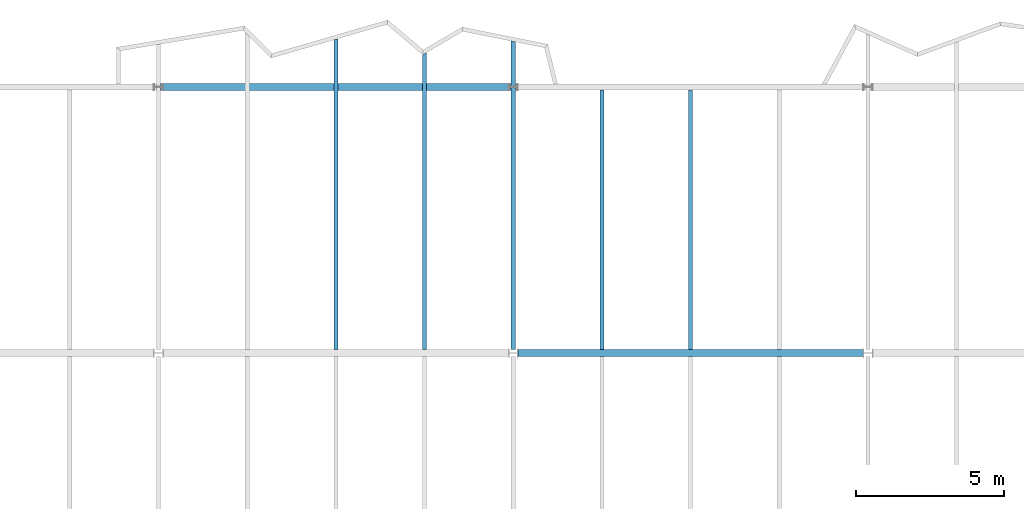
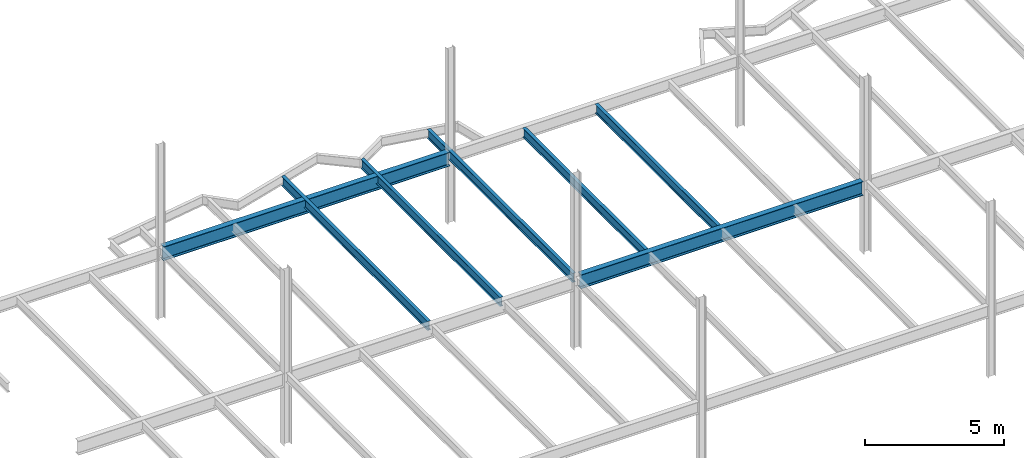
# One storey, part 6 of 23: 7 beams.
"""IFC2X3 building model written with IfcOpenShell, lengths in millimetres."""

from ifc_helpers import new_model, si_unit, origin, place, context, project, spatial, faceted_brep, material, element, save


model = new_model("IFC2X3")

# Units and contexts
context_of_model = context(None, 3, precision=1e-05, world=origin())
ifc_project = project(units=[si_unit("LENGTHUNIT", "METRE", prefix="MILLI")], contexts=[context_of_model])

# Building, storey
building = spatial("IfcBuilding", under=ifc_project, Name="Building", CompositionType="ELEMENT")
storey = spatial("IfcBuildingStorey", under=building, Name="FL5-FRM", CompositionType="ELEMENT")

# Beams
ifc_material_1 = material(Name="A992")
beam_1_placement = place(None, origin())
element("IfcBeam", 1, at=beam_1_placement, inside=storey, material=ifc_material_1, Name="Column401", context=context_of_model, shape_type="Brep", body=[
    faceted_brep([(-47930.0, 35885.5, 17261.0), (-47930.0, 36114.5, 17261.0), (-36070.0, 36114.5, 17261.0), (-36070.0, 35885.5, 17261.0), (-47930.0, 36114.5, 17280.6), (-36070.0, 36114.5, 17280.6), (-47930.0, 36018.6, 17280.6), (-36070.0, 36018.6, 17280.6), (-47930.0, 36015.4, 17281.0), (-36070.0, 36015.4, 17281.0), (-47930.0, 36012.3, 17282.3), (-36070.0, 36012.3, 17282.3), (-47930.0, 36009.7, 17284.3), (-36070.0, 36009.7, 17284.3), (-47930.0, 36007.7, 17287.0), (-36070.0, 36007.7, 17287.0), (-47930.0, 36006.4, 17290.0), (-36070.0, 36006.4, 17290.0), (-47930.0, 36005.9, 17293.3), (-36070.0, 36005.9, 17293.3), (-47930.0, 36005.9, 17840.7), (-36070.0, 36005.9, 17840.7), (-47930.0, 36006.4, 17844.0), (-36070.0, 36006.4, 17844.0), (-47930.0, 36007.7, 17847.0), (-36070.0, 36007.7, 17847.0), (-47930.0, 36009.7, 17849.7), (-36070.0, 36009.7, 17849.7), (-47930.0, 36012.3, 17851.7), (-36070.0, 36012.3, 17851.7), (-47930.0, 36015.4, 17853.0), (-36070.0, 36015.4, 17853.0), (-47930.0, 36018.6, 17853.4), (-36070.0, 36018.6, 17853.4), (-47930.0, 36114.5, 17853.4), (-36070.0, 36114.5, 17853.4), (-47930.0, 36114.5, 17873.0), (-36070.0, 36114.5, 17873.0), (-47930.0, 35885.5, 17873.0), (-36070.0, 35885.5, 17873.0), (-47930.0, 35885.5, 17853.4), (-36070.0, 35885.5, 17853.4), (-47930.0, 35981.4, 17853.4), (-36070.0, 35981.4, 17853.4), (-47930.0, 35984.6, 17853.0), (-36070.0, 35984.6, 17853.0), (-47930.0, 35987.7, 17851.7), (-36070.0, 35987.7, 17851.7), (-47930.0, 35990.3, 17849.7), (-36070.0, 35990.3, 17849.7), (-47930.0, 35992.3, 17847.0), (-36070.0, 35992.3, 17847.0), (-47930.0, 35993.6, 17844.0), (-36070.0, 35993.6, 17844.0), (-47930.0, 35994.1, 17840.7), (-36070.0, 35994.1, 17840.7), (-47930.0, 35994.1, 17293.3), (-36070.0, 35994.1, 17293.3), (-47930.0, 35993.6, 17290.0), (-36070.0, 35993.6, 17290.0), (-47930.0, 35992.3, 17287.0), (-36070.0, 35992.3, 17287.0), (-47930.0, 35990.3, 17284.3), (-36070.0, 35990.3, 17284.3), (-47930.0, 35987.7, 17282.3), (-36070.0, 35987.7, 17282.3), (-47930.0, 35984.6, 17281.0), (-36070.0, 35984.6, 17281.0), (-47930.0, 35981.4, 17280.6), (-36070.0, 35981.4, 17280.6), (-47930.0, 35885.5, 17280.6), (-36070.0, 35885.5, 17280.6)], [[[0, 1, 2, 3]], [[1, 4, 5, 2]], [[4, 6, 7, 5]], [[6, 8, 9, 7]], [[8, 10, 11, 9]], [[10, 12, 13, 11]], [[12, 14, 15, 13]], [[14, 16, 17, 15]], [[16, 18, 19, 17]], [[18, 20, 21, 19]], [[20, 22, 23, 21]], [[22, 24, 25, 23]], [[24, 26, 27, 25]], [[26, 28, 29, 27]], [[28, 30, 31, 29]], [[30, 32, 33, 31]], [[32, 34, 35, 33]], [[34, 36, 37, 35]], [[36, 38, 39, 37]], [[38, 40, 41, 39]], [[40, 42, 43, 41]], [[42, 44, 45, 43]], [[44, 46, 47, 45]], [[46, 48, 49, 47]], [[48, 50, 51, 49]], [[50, 52, 53, 51]], [[52, 54, 55, 53]], [[54, 56, 57, 55]], [[56, 58, 59, 57]], [[58, 60, 61, 59]], [[60, 62, 63, 61]], [[62, 64, 65, 63]], [[64, 66, 67, 65]], [[66, 68, 69, 67]], [[68, 70, 71, 69]], [[70, 0, 3, 71]], [[0, 70, 68, 66, 64, 62, 60, 58, 56, 54, 52, 50, 48, 46, 44, 42, 40, 38, 36, 34, 32, 30, 28, 26, 24, 22, 20, 18, 16, 14, 12, 10, 8, 6, 4, 1]], [[3, 2, 5, 7, 9, 11, 13, 15, 17, 19, 21, 23, 25, 27, 29, 31, 33, 35, 37, 39, 41, 43, 45, 47, 49, 51, 53, 55, 57, 59, 61, 63, 65, 67, 69, 71]]]),
])
ifc_material_2 = material(Name="A992")
beam_2_placement = place(None, origin())
element("IfcBeam", 2, at=beam_2_placement, inside=storey, material=ifc_material_2, Name="B254", context=context_of_model, shape_type="Brep", body=[
    faceted_brep([(-42070.0, 37592.1, 17474.0), (-41930.0, 37632.7, 17474.0), (-41930.0, 27114.5, 17474.0), (-42070.0, 27114.5, 17474.0), (-41930.0, 37632.7, 17482.8), (-41930.0, 27114.5, 17482.8), (-41986.6, 37616.3, 17482.8), (-41986.6, 27114.5, 17482.8), (-41988.0, 37615.9, 17482.9), (-41988.1, 27114.5, 17482.9), (-41989.5, 37615.4, 17483.2), (-41989.5, 27114.5, 17483.2), (-41990.8, 37615.0, 17483.7), (-41990.8, 27114.5, 17483.7), (-41992.1, 37614.7, 17484.4), (-41992.1, 27114.5, 17484.4), (-41993.3, 37614.3, 17485.3), (-41993.3, 27114.5, 17485.3), (-41994.3, 37614.0, 17486.3), (-41994.3, 27114.5, 17486.3), (-41995.2, 37613.8, 17487.5), (-41995.2, 27114.5, 17487.5), (-41995.9, 37613.6, 17488.8), (-41995.9, 27114.5, 17488.8), (-41996.4, 37613.4, 17490.1), (-41996.4, 27114.5, 17490.1), (-41996.7, 37613.4, 17491.5), (-41996.7, 27114.5, 17491.5), (-41996.8, 37613.3, 17493.0), (-41996.8, 27114.5, 17493.0), (-41996.8, 37613.3, 17854.0), (-41996.8, 27114.5, 17854.0), (-41996.7, 37613.4, 17855.5), (-41996.7, 27114.5, 17855.5), (-41996.4, 37613.4, 17856.9), (-41996.4, 27114.5, 17856.9), (-41995.9, 37613.6, 17858.2), (-41995.9, 27114.5, 17858.2), (-41995.2, 37613.8, 17859.5), (-41995.2, 27114.5, 17859.5), (-41994.3, 37614.0, 17860.7), (-41994.3, 27114.5, 17860.7), (-41993.3, 37614.3, 17861.7), (-41993.3, 27114.5, 17861.7), (-41992.1, 37614.7, 17862.6), (-41992.1, 27114.5, 17862.6), (-41990.8, 37615.0, 17863.3), (-41990.8, 27114.5, 17863.3), (-41989.5, 37615.4, 17863.8), (-41989.5, 27114.5, 17863.8), (-41988.0, 37615.9, 17864.1), (-41988.1, 27114.5, 17864.1), (-41986.6, 37616.3, 17864.2), (-41986.6, 27114.5, 17864.2), (-41930.0, 37632.7, 17864.2), (-41930.0, 27114.5, 17864.2), (-41930.0, 37632.7, 17873.0), (-41930.0, 27114.5, 17873.0), (-42070.0, 37592.1, 17873.0), (-42070.0, 27114.5, 17873.0), (-42070.0, 37592.1, 17864.2), (-42070.0, 27114.5, 17864.2), (-42013.4, 37608.5, 17864.2), (-42013.4, 27114.5, 17864.2), (-42012.0, 37608.9, 17864.1), (-42011.9, 27114.5, 17864.1), (-42010.5, 37609.3, 17863.8), (-42010.5, 27114.5, 17863.8), (-42009.2, 37609.7, 17863.3), (-42009.2, 27114.5, 17863.3), (-42007.9, 37610.1, 17862.6), (-42007.9, 27114.5, 17862.6), (-42006.7, 37610.4, 17861.7), (-42006.7, 27114.5, 17861.7), (-42005.7, 37610.7, 17860.7), (-42005.7, 27114.5, 17860.7), (-42004.8, 37611.0, 17859.5), (-42004.8, 27114.5, 17859.5), (-42004.1, 37611.2, 17858.2), (-42004.1, 27114.5, 17858.2), (-42003.6, 37611.3, 17856.9), (-42003.6, 27114.5, 17856.9), (-42003.3, 37611.4, 17855.5), (-42003.3, 27114.5, 17855.5), (-42003.2, 37611.5, 17854.0), (-42003.2, 27114.5, 17854.0), (-42003.2, 37611.5, 17493.0), (-42003.2, 27114.5, 17493.0), (-42003.3, 37611.4, 17491.5), (-42003.3, 27114.5, 17491.5), (-42003.6, 37611.3, 17490.1), (-42003.6, 27114.5, 17490.1), (-42004.1, 37611.2, 17488.8), (-42004.1, 27114.5, 17488.8), (-42004.8, 37611.0, 17487.5), (-42004.8, 27114.5, 17487.5), (-42005.7, 37610.7, 17486.3), (-42005.7, 27114.5, 17486.3), (-42006.7, 37610.4, 17485.3), (-42006.7, 27114.5, 17485.3), (-42007.9, 37610.1, 17484.4), (-42007.9, 27114.5, 17484.4), (-42009.2, 37609.7, 17483.7), (-42009.2, 27114.5, 17483.7), (-42010.5, 37609.3, 17483.2), (-42010.5, 27114.5, 17483.2), (-42012.0, 37608.9, 17482.9), (-42011.9, 27114.5, 17482.9), (-42013.4, 37608.5, 17482.8), (-42013.4, 27114.5, 17482.8), (-42070.0, 37592.1, 17482.8), (-42070.0, 27114.5, 17482.8)], [[[0, 1, 2, 3]], [[1, 4, 5, 2]], [[4, 6, 7, 5]], [[6, 8, 9, 7]], [[8, 10, 11, 9]], [[10, 12, 13, 11]], [[12, 14, 15, 13]], [[14, 16, 17, 15]], [[16, 18, 19, 17]], [[18, 20, 21, 19]], [[20, 22, 23, 21]], [[22, 24, 25, 23]], [[24, 26, 27, 25]], [[26, 28, 29, 27]], [[28, 30, 31, 29]], [[30, 32, 33, 31]], [[32, 34, 35, 33]], [[34, 36, 37, 35]], [[36, 38, 39, 37]], [[38, 40, 41, 39]], [[40, 42, 43, 41]], [[42, 44, 45, 43]], [[44, 46, 47, 45]], [[46, 48, 49, 47]], [[48, 50, 51, 49]], [[50, 52, 53, 51]], [[52, 54, 55, 53]], [[54, 56, 57, 55]], [[56, 58, 59, 57]], [[58, 60, 61, 59]], [[60, 62, 63, 61]], [[62, 64, 65, 63]], [[64, 66, 67, 65]], [[66, 68, 69, 67]], [[68, 70, 71, 69]], [[70, 72, 73, 71]], [[72, 74, 75, 73]], [[74, 76, 77, 75]], [[76, 78, 79, 77]], [[78, 80, 81, 79]], [[80, 82, 83, 81]], [[82, 84, 85, 83]], [[84, 86, 87, 85]], [[86, 88, 89, 87]], [[88, 90, 91, 89]], [[90, 92, 93, 91]], [[92, 94, 95, 93]], [[94, 96, 97, 95]], [[96, 98, 99, 97]], [[98, 100, 101, 99]], [[100, 102, 103, 101]], [[102, 104, 105, 103]], [[104, 106, 107, 105]], [[106, 108, 109, 107]], [[108, 110, 111, 109]], [[110, 0, 3, 111]], [[0, 110, 108, 106, 104, 102, 100, 98, 96, 94, 92, 90, 88, 86, 84, 82, 80, 78, 76, 74, 72, 70, 68, 66, 64, 62, 60, 58, 56, 54, 52, 50, 48, 46, 44, 42, 40, 38, 36, 34, 32, 30, 28, 26, 24, 22, 20, 18, 16, 14, 12, 10, 8, 6, 4, 1]], [[3, 2, 5, 7, 9, 11, 13, 15, 17, 19, 21, 23, 25, 27, 29, 31, 33, 35, 37, 39, 41, 43, 45, 47, 49, 51, 53, 55, 57, 59, 61, 63, 65, 67, 69, 71, 73, 75, 77, 79, 81, 83, 85, 87, 89, 91, 93, 95, 97, 99, 101, 103, 105, 107, 109, 111]]]),
])
ifc_material_3 = material(Name="A992")
beam_3_placement = place(None, origin())
element("IfcBeam", 3, at=beam_3_placement, inside=storey, material=ifc_material_3, Name="B255", context=context_of_model, shape_type="Brep", body=[
    faceted_brep([(-39070.0, 37082.6, 17474.0), (-38930.0, 37164.3, 17474.0), (-38930.0, 27114.5, 17474.0), (-39070.0, 27114.5, 17474.0), (-38930.0, 37164.3, 17482.8), (-38930.0, 27114.5, 17482.8), (-38986.6, 37131.3, 17482.8), (-38986.6, 27114.5, 17482.8), (-38988.0, 37130.4, 17482.9), (-38988.1, 27114.5, 17482.9), (-38989.5, 37129.6, 17483.2), (-38989.5, 27114.5, 17483.2), (-38990.8, 37128.8, 17483.7), (-38990.8, 27114.5, 17483.7), (-38992.1, 37128.1, 17484.4), (-38992.1, 27114.5, 17484.4), (-38993.3, 37127.4, 17485.3), (-38993.3, 27114.5, 17485.3), (-38994.3, 37126.8, 17486.3), (-38994.3, 27114.5, 17486.3), (-38995.2, 37126.3, 17487.5), (-38995.2, 27114.5, 17487.5), (-38995.9, 37125.8, 17488.8), (-38995.9, 27114.5, 17488.8), (-38996.4, 37125.6, 17490.1), (-38996.4, 27114.5, 17490.1), (-38996.7, 37125.4, 17491.5), (-38996.7, 27114.5, 17491.5), (-38996.8, 37125.3, 17493.0), (-38996.8, 27114.5, 17493.0), (-38996.8, 37125.3, 17854.0), (-38996.8, 27114.5, 17854.0), (-38996.7, 37125.4, 17855.5), (-38996.7, 27114.5, 17855.5), (-38996.4, 37125.6, 17856.9), (-38996.4, 27114.5, 17856.9), (-38995.9, 37125.8, 17858.2), (-38995.9, 27114.5, 17858.2), (-38995.2, 37126.3, 17859.5), (-38995.2, 27114.5, 17859.5), (-38994.3, 37126.8, 17860.7), (-38994.3, 27114.5, 17860.7), (-38993.3, 37127.4, 17861.7), (-38993.3, 27114.5, 17861.7), (-38992.1, 37128.1, 17862.6), (-38992.1, 27114.5, 17862.6), (-38990.8, 37128.8, 17863.3), (-38990.8, 27114.5, 17863.3), (-38989.5, 37129.6, 17863.8), (-38989.5, 27114.5, 17863.8), (-38988.0, 37130.4, 17864.1), (-38988.1, 27114.5, 17864.1), (-38986.6, 37131.3, 17864.2), (-38986.6, 27114.5, 17864.2), (-38930.0, 37164.3, 17864.2), (-38930.0, 27114.5, 17864.2), (-38930.0, 37164.3, 17873.0), (-38930.0, 27114.5, 17873.0), (-39070.0, 37082.6, 17873.0), (-39070.0, 27114.5, 17873.0), (-39070.0, 37082.6, 17864.2), (-39070.0, 27114.5, 17864.2), (-39013.4, 37115.6, 17864.2), (-39013.4, 27114.5, 17864.2), (-39012.0, 37116.5, 17864.1), (-39011.9, 27114.5, 17864.1), (-39010.5, 37117.3, 17863.8), (-39010.5, 27114.5, 17863.8), (-39009.2, 37118.1, 17863.3), (-39009.2, 27114.5, 17863.3), (-39007.9, 37118.8, 17862.6), (-39007.9, 27114.5, 17862.6), (-39006.7, 37119.5, 17861.7), (-39006.7, 27114.5, 17861.7), (-39005.7, 37120.1, 17860.7), (-39005.7, 27114.5, 17860.7), (-39004.8, 37120.6, 17859.5), (-39004.8, 27114.5, 17859.5), (-39004.1, 37121.0, 17858.2), (-39004.1, 27114.5, 17858.2), (-39003.6, 37121.3, 17856.9), (-39003.6, 27114.5, 17856.9), (-39003.3, 37121.5, 17855.5), (-39003.3, 27114.5, 17855.5), (-39003.2, 37121.6, 17854.0), (-39003.2, 27114.5, 17854.0), (-39003.2, 37121.6, 17493.0), (-39003.2, 27114.5, 17493.0), (-39003.3, 37121.5, 17491.5), (-39003.3, 27114.5, 17491.5), (-39003.6, 37121.3, 17490.1), (-39003.6, 27114.5, 17490.1), (-39004.1, 37121.0, 17488.8), (-39004.1, 27114.5, 17488.8), (-39004.8, 37120.6, 17487.5), (-39004.8, 27114.5, 17487.5), (-39005.7, 37120.1, 17486.3), (-39005.7, 27114.5, 17486.3), (-39006.7, 37119.5, 17485.3), (-39006.7, 27114.5, 17485.3), (-39007.9, 37118.8, 17484.4), (-39007.9, 27114.5, 17484.4), (-39009.2, 37118.1, 17483.7), (-39009.2, 27114.5, 17483.7), (-39010.5, 37117.3, 17483.2), (-39010.5, 27114.5, 17483.2), (-39012.0, 37116.5, 17482.9), (-39011.9, 27114.5, 17482.9), (-39013.4, 37115.6, 17482.8), (-39013.4, 27114.5, 17482.8), (-39070.0, 37082.6, 17482.8), (-39070.0, 27114.5, 17482.8)], [[[0, 1, 2, 3]], [[1, 4, 5, 2]], [[4, 6, 7, 5]], [[6, 8, 9, 7]], [[8, 10, 11, 9]], [[10, 12, 13, 11]], [[12, 14, 15, 13]], [[14, 16, 17, 15]], [[16, 18, 19, 17]], [[18, 20, 21, 19]], [[20, 22, 23, 21]], [[22, 24, 25, 23]], [[24, 26, 27, 25]], [[26, 28, 29, 27]], [[28, 30, 31, 29]], [[30, 32, 33, 31]], [[32, 34, 35, 33]], [[34, 36, 37, 35]], [[36, 38, 39, 37]], [[38, 40, 41, 39]], [[40, 42, 43, 41]], [[42, 44, 45, 43]], [[44, 46, 47, 45]], [[46, 48, 49, 47]], [[48, 50, 51, 49]], [[50, 52, 53, 51]], [[52, 54, 55, 53]], [[54, 56, 57, 55]], [[56, 58, 59, 57]], [[58, 60, 61, 59]], [[60, 62, 63, 61]], [[62, 64, 65, 63]], [[64, 66, 67, 65]], [[66, 68, 69, 67]], [[68, 70, 71, 69]], [[70, 72, 73, 71]], [[72, 74, 75, 73]], [[74, 76, 77, 75]], [[76, 78, 79, 77]], [[78, 80, 81, 79]], [[80, 82, 83, 81]], [[82, 84, 85, 83]], [[84, 86, 87, 85]], [[86, 88, 89, 87]], [[88, 90, 91, 89]], [[90, 92, 93, 91]], [[92, 94, 95, 93]], [[94, 96, 97, 95]], [[96, 98, 99, 97]], [[98, 100, 101, 99]], [[100, 102, 103, 101]], [[102, 104, 105, 103]], [[104, 106, 107, 105]], [[106, 108, 109, 107]], [[108, 110, 111, 109]], [[110, 0, 3, 111]], [[0, 110, 108, 106, 104, 102, 100, 98, 96, 94, 92, 90, 88, 86, 84, 82, 80, 78, 76, 74, 72, 70, 68, 66, 64, 62, 60, 58, 56, 54, 52, 50, 48, 46, 44, 42, 40, 38, 36, 34, 32, 30, 28, 26, 24, 22, 20, 18, 16, 14, 12, 10, 8, 6, 4, 1]], [[3, 2, 5, 7, 9, 11, 13, 15, 17, 19, 21, 23, 25, 27, 29, 31, 33, 35, 37, 39, 41, 43, 45, 47, 49, 51, 53, 55, 57, 59, 61, 63, 65, 67, 69, 71, 73, 75, 77, 79, 81, 83, 85, 87, 89, 91, 93, 95, 97, 99, 101, 103, 105, 107, 109, 111]]]),
])
ifc_material_4 = material(Name="A992")
beam_4_placement = place(None, origin())
element("IfcBeam", 4, at=beam_4_placement, inside=storey, material=ifc_material_4, Name="B256", context=context_of_model, shape_type="Brep", body=[
    faceted_brep([(-36070.0, 37552.7, 17474.0), (-35930.0, 37524.7, 17474.0), (-35930.0, 27114.5, 17474.0), (-36070.0, 27114.5, 17474.0), (-35930.0, 37524.7, 17482.8), (-35930.0, 27114.5, 17482.8), (-35986.6, 37536.0, 17482.8), (-35986.6, 27114.5, 17482.8), (-35988.1, 37536.3, 17482.9), (-35988.1, 27114.5, 17482.9), (-35989.5, 37536.6, 17483.2), (-35989.5, 27114.5, 17483.2), (-35990.8, 37536.9, 17483.7), (-35990.8, 27114.5, 17483.7), (-35992.1, 37537.1, 17484.4), (-35992.1, 27114.5, 17484.4), (-35993.3, 37537.4, 17485.3), (-35993.3, 27114.5, 17485.3), (-35994.3, 37537.6, 17486.3), (-35994.3, 27114.5, 17486.3), (-35995.2, 37537.7, 17487.5), (-35995.2, 27114.5, 17487.5), (-35995.9, 37537.9, 17488.8), (-35995.9, 27114.5, 17488.8), (-35996.4, 37538.0, 17490.1), (-35996.4, 27114.5, 17490.1), (-35996.7, 37538.1, 17491.5), (-35996.7, 27114.5, 17491.5), (-35996.8, 37538.1, 17493.0), (-35996.8, 27114.5, 17493.0), (-35996.8, 37538.1, 17854.0), (-35996.8, 27114.5, 17854.0), (-35996.7, 37538.1, 17855.5), (-35996.7, 27114.5, 17855.5), (-35996.4, 37538.0, 17856.9), (-35996.4, 27114.5, 17856.9), (-35995.9, 37537.9, 17858.2), (-35995.9, 27114.5, 17858.2), (-35995.2, 37537.7, 17859.5), (-35995.2, 27114.5, 17859.5), (-35994.3, 37537.6, 17860.7), (-35994.3, 27114.5, 17860.7), (-35993.3, 37537.4, 17861.7), (-35993.3, 27114.5, 17861.7), (-35992.1, 37537.1, 17862.6), (-35992.1, 27114.5, 17862.6), (-35990.8, 37536.9, 17863.3), (-35990.8, 27114.5, 17863.3), (-35989.5, 37536.6, 17863.8), (-35989.5, 27114.5, 17863.8), (-35988.1, 37536.3, 17864.1), (-35988.1, 27114.5, 17864.1), (-35986.6, 37536.0, 17864.2), (-35986.6, 27114.5, 17864.2), (-35930.0, 37524.7, 17864.2), (-35930.0, 27114.5, 17864.2), (-35930.0, 37524.7, 17873.0), (-35930.0, 27114.5, 17873.0), (-36070.0, 37552.7, 17873.0), (-36070.0, 27114.5, 17873.0), (-36070.0, 37552.7, 17864.2), (-36070.0, 27114.5, 17864.2), (-36013.4, 37541.4, 17864.2), (-36013.4, 27114.5, 17864.2), (-36011.9, 37541.1, 17864.1), (-36011.9, 27114.5, 17864.1), (-36010.5, 37540.8, 17863.8), (-36010.5, 27114.5, 17863.8), (-36009.2, 37540.5, 17863.3), (-36009.2, 27114.5, 17863.3), (-36007.9, 37540.3, 17862.6), (-36007.9, 27114.5, 17862.6), (-36006.7, 37540.1, 17861.7), (-36006.7, 27114.5, 17861.7), (-36005.7, 37539.9, 17860.7), (-36005.7, 27114.5, 17860.7), (-36004.8, 37539.7, 17859.5), (-36004.8, 27114.5, 17859.5), (-36004.1, 37539.5, 17858.2), (-36004.1, 27114.5, 17858.2), (-36003.6, 37539.4, 17856.9), (-36003.6, 27114.5, 17856.9), (-36003.3, 37539.4, 17855.5), (-36003.3, 27114.5, 17855.5), (-36003.2, 37539.4, 17854.0), (-36003.2, 27114.5, 17854.0), (-36003.2, 37539.4, 17493.0), (-36003.2, 27114.5, 17493.0), (-36003.3, 37539.4, 17491.5), (-36003.3, 27114.5, 17491.5), (-36003.6, 37539.4, 17490.1), (-36003.6, 27114.5, 17490.1), (-36004.1, 37539.5, 17488.8), (-36004.1, 27114.5, 17488.8), (-36004.8, 37539.7, 17487.5), (-36004.8, 27114.5, 17487.5), (-36005.7, 37539.9, 17486.3), (-36005.7, 27114.5, 17486.3), (-36006.7, 37540.1, 17485.3), (-36006.7, 27114.5, 17485.3), (-36007.9, 37540.3, 17484.4), (-36007.9, 27114.5, 17484.4), (-36009.2, 37540.5, 17483.7), (-36009.2, 27114.5, 17483.7), (-36010.5, 37540.8, 17483.2), (-36010.5, 27114.5, 17483.2), (-36011.9, 37541.1, 17482.9), (-36011.9, 27114.5, 17482.9), (-36013.4, 37541.4, 17482.8), (-36013.4, 27114.5, 17482.8), (-36070.0, 37552.7, 17482.8), (-36070.0, 27114.5, 17482.8)], [[[0, 1, 2, 3]], [[1, 4, 5, 2]], [[4, 6, 7, 5]], [[6, 8, 9, 7]], [[8, 10, 11, 9]], [[10, 12, 13, 11]], [[12, 14, 15, 13]], [[14, 16, 17, 15]], [[16, 18, 19, 17]], [[18, 20, 21, 19]], [[20, 22, 23, 21]], [[22, 24, 25, 23]], [[24, 26, 27, 25]], [[26, 28, 29, 27]], [[28, 30, 31, 29]], [[30, 32, 33, 31]], [[32, 34, 35, 33]], [[34, 36, 37, 35]], [[36, 38, 39, 37]], [[38, 40, 41, 39]], [[40, 42, 43, 41]], [[42, 44, 45, 43]], [[44, 46, 47, 45]], [[46, 48, 49, 47]], [[48, 50, 51, 49]], [[50, 52, 53, 51]], [[52, 54, 55, 53]], [[54, 56, 57, 55]], [[56, 58, 59, 57]], [[58, 60, 61, 59]], [[60, 62, 63, 61]], [[62, 64, 65, 63]], [[64, 66, 67, 65]], [[66, 68, 69, 67]], [[68, 70, 71, 69]], [[70, 72, 73, 71]], [[72, 74, 75, 73]], [[74, 76, 77, 75]], [[76, 78, 79, 77]], [[78, 80, 81, 79]], [[80, 82, 83, 81]], [[82, 84, 85, 83]], [[84, 86, 87, 85]], [[86, 88, 89, 87]], [[88, 90, 91, 89]], [[90, 92, 93, 91]], [[92, 94, 95, 93]], [[94, 96, 97, 95]], [[96, 98, 99, 97]], [[98, 100, 101, 99]], [[100, 102, 103, 101]], [[102, 104, 105, 103]], [[104, 106, 107, 105]], [[106, 108, 109, 107]], [[108, 110, 111, 109]], [[110, 0, 3, 111]], [[0, 110, 108, 106, 104, 102, 100, 98, 96, 94, 92, 90, 88, 86, 84, 82, 80, 78, 76, 74, 72, 70, 68, 66, 64, 62, 60, 58, 56, 54, 52, 50, 48, 46, 44, 42, 40, 38, 36, 34, 32, 30, 28, 26, 24, 22, 20, 18, 16, 14, 12, 10, 8, 6, 4, 1]], [[3, 2, 5, 7, 9, 11, 13, 15, 17, 19, 21, 23, 25, 27, 29, 31, 33, 35, 37, 39, 41, 43, 45, 47, 49, 51, 53, 55, 57, 59, 61, 63, 65, 67, 69, 71, 73, 75, 77, 79, 81, 83, 85, 87, 89, 91, 93, 95, 97, 99, 101, 103, 105, 107, 109, 111]]]),
])
ifc_material_5 = material(Name="A992")
beam_5_placement = place(None, origin())
element("IfcBeam", 5, at=beam_5_placement, inside=storey, material=ifc_material_5, Name="Column404", context=context_of_model, shape_type="Brep", body=[
    faceted_brep([(-35846.0, 26885.5, 17261.0), (-35846.0, 27114.5, 17261.0), (-24154.0, 27114.5, 17261.0), (-24154.0, 26885.5, 17261.0), (-35846.0, 27114.5, 17280.6), (-24154.0, 27114.5, 17280.6), (-35846.0, 27018.6, 17280.6), (-24154.0, 27018.6, 17280.6), (-35846.0, 27015.4, 17281.0), (-24154.0, 27015.4, 17281.0), (-35846.0, 27012.3, 17282.3), (-24154.0, 27012.3, 17282.3), (-35846.0, 27009.7, 17284.3), (-24154.0, 27009.7, 17284.3), (-35846.0, 27007.7, 17287.0), (-24154.0, 27007.7, 17287.0), (-35846.0, 27006.4, 17290.0), (-24154.0, 27006.4, 17290.0), (-35846.0, 27005.9, 17293.3), (-24154.0, 27005.9, 17293.3), (-35846.0, 27005.9, 17840.7), (-24154.0, 27005.9, 17840.7), (-35846.0, 27006.4, 17844.0), (-24154.0, 27006.4, 17844.0), (-35846.0, 27007.7, 17847.0), (-24154.0, 27007.7, 17847.0), (-35846.0, 27009.7, 17849.7), (-24154.0, 27009.7, 17849.7), (-35846.0, 27012.3, 17851.7), (-24154.0, 27012.3, 17851.7), (-35846.0, 27015.4, 17853.0), (-24154.0, 27015.4, 17853.0), (-35846.0, 27018.6, 17853.4), (-24154.0, 27018.6, 17853.4), (-35846.0, 27114.5, 17853.4), (-24154.0, 27114.5, 17853.4), (-35846.0, 27114.5, 17873.0), (-24154.0, 27114.5, 17873.0), (-35846.0, 26885.5, 17873.0), (-24154.0, 26885.5, 17873.0), (-35846.0, 26885.5, 17853.4), (-24154.0, 26885.5, 17853.4), (-35846.0, 26981.4, 17853.4), (-24154.0, 26981.4, 17853.4), (-35846.0, 26984.6, 17853.0), (-24154.0, 26984.6, 17853.0), (-35846.0, 26987.7, 17851.7), (-24154.0, 26987.7, 17851.7), (-35846.0, 26990.3, 17849.7), (-24154.0, 26990.3, 17849.7), (-35846.0, 26992.3, 17847.0), (-24154.0, 26992.3, 17847.0), (-35846.0, 26993.6, 17844.0), (-24154.0, 26993.6, 17844.0), (-35846.0, 26994.1, 17840.7), (-24154.0, 26994.1, 17840.7), (-35846.0, 26994.1, 17293.3), (-24154.0, 26994.1, 17293.3), (-35846.0, 26993.6, 17290.0), (-24154.0, 26993.6, 17290.0), (-35846.0, 26992.3, 17287.0), (-24154.0, 26992.3, 17287.0), (-35846.0, 26990.3, 17284.3), (-24154.0, 26990.3, 17284.3), (-35846.0, 26987.7, 17282.3), (-24154.0, 26987.7, 17282.3), (-35846.0, 26984.6, 17281.0), (-24154.0, 26984.6, 17281.0), (-35846.0, 26981.4, 17280.6), (-24154.0, 26981.4, 17280.6), (-35846.0, 26885.5, 17280.6), (-24154.0, 26885.5, 17280.6)], [[[0, 1, 2, 3]], [[1, 4, 5, 2]], [[4, 6, 7, 5]], [[6, 8, 9, 7]], [[8, 10, 11, 9]], [[10, 12, 13, 11]], [[12, 14, 15, 13]], [[14, 16, 17, 15]], [[16, 18, 19, 17]], [[18, 20, 21, 19]], [[20, 22, 23, 21]], [[22, 24, 25, 23]], [[24, 26, 27, 25]], [[26, 28, 29, 27]], [[28, 30, 31, 29]], [[30, 32, 33, 31]], [[32, 34, 35, 33]], [[34, 36, 37, 35]], [[36, 38, 39, 37]], [[38, 40, 41, 39]], [[40, 42, 43, 41]], [[42, 44, 45, 43]], [[44, 46, 47, 45]], [[46, 48, 49, 47]], [[48, 50, 51, 49]], [[50, 52, 53, 51]], [[52, 54, 55, 53]], [[54, 56, 57, 55]], [[56, 58, 59, 57]], [[58, 60, 61, 59]], [[60, 62, 63, 61]], [[62, 64, 65, 63]], [[64, 66, 67, 65]], [[66, 68, 69, 67]], [[68, 70, 71, 69]], [[70, 0, 3, 71]], [[0, 70, 68, 66, 64, 62, 60, 58, 56, 54, 52, 50, 48, 46, 44, 42, 40, 38, 36, 34, 32, 30, 28, 26, 24, 22, 20, 18, 16, 14, 12, 10, 8, 6, 4, 1]], [[3, 2, 5, 7, 9, 11, 13, 15, 17, 19, 21, 23, 25, 27, 29, 31, 33, 35, 37, 39, 41, 43, 45, 47, 49, 51, 53, 55, 57, 59, 61, 63, 65, 67, 69, 71]]]),
])
ifc_material_6 = material(Name="A992")
beam_6_placement = place(None, origin())
element("IfcBeam", 6, at=beam_6_placement, inside=storey, material=ifc_material_6, Name="B257", context=context_of_model, shape_type="Brep", body=[
    faceted_brep([(-33070.0, 35895.5, 17474.0), (-32930.0, 35895.5, 17474.0), (-32930.0, 27114.5, 17474.0), (-33070.0, 27114.5, 17474.0), (-32930.0, 35895.5, 17482.8), (-32930.0, 27114.5, 17482.8), (-32986.6, 35895.5, 17482.8), (-32986.6, 27114.5, 17482.8), (-32989.2, 35895.5, 17483.1), (-32989.2, 27114.5, 17483.1), (-32991.7, 35895.5, 17484.2), (-32991.7, 27114.5, 17484.2), (-32993.8, 35895.5, 17485.8), (-32993.8, 27114.5, 17485.8), (-32995.4, 35895.5, 17487.9), (-32995.4, 27114.5, 17487.9), (-32996.5, 35895.5, 17490.4), (-32996.5, 27114.5, 17490.4), (-32996.8, 35895.5, 17493.0), (-32996.8, 27114.5, 17493.0), (-32996.8, 35895.5, 17854.0), (-32996.8, 27114.5, 17854.0), (-32996.5, 35895.5, 17856.6), (-32996.5, 27114.5, 17856.6), (-32995.4, 35895.5, 17859.1), (-32995.4, 27114.5, 17859.1), (-32993.8, 35895.5, 17861.2), (-32993.8, 27114.5, 17861.2), (-32991.7, 35895.5, 17862.8), (-32991.7, 27114.5, 17862.8), (-32989.2, 35895.5, 17863.9), (-32989.2, 27114.5, 17863.9), (-32986.6, 35895.5, 17864.2), (-32986.6, 27114.5, 17864.2), (-32930.0, 35895.5, 17864.2), (-32930.0, 27114.5, 17864.2), (-32930.0, 35895.5, 17873.0), (-32930.0, 27114.5, 17873.0), (-33070.0, 35895.5, 17873.0), (-33070.0, 27114.5, 17873.0), (-33070.0, 35895.5, 17864.2), (-33070.0, 27114.5, 17864.2), (-33013.4, 35895.5, 17864.2), (-33013.4, 27114.5, 17864.2), (-33010.8, 35895.5, 17863.9), (-33010.8, 27114.5, 17863.9), (-33008.3, 35895.5, 17862.8), (-33008.3, 27114.5, 17862.8), (-33006.2, 35895.5, 17861.2), (-33006.2, 27114.5, 17861.2), (-33004.6, 35895.5, 17859.1), (-33004.6, 27114.5, 17859.1), (-33003.5, 35895.5, 17856.6), (-33003.5, 27114.5, 17856.6), (-33003.2, 35895.5, 17854.0), (-33003.2, 27114.5, 17854.0), (-33003.2, 35895.5, 17493.0), (-33003.2, 27114.5, 17493.0), (-33003.5, 35895.5, 17490.4), (-33003.5, 27114.5, 17490.4), (-33004.6, 35895.5, 17487.9), (-33004.6, 27114.5, 17487.9), (-33006.2, 35895.5, 17485.8), (-33006.2, 27114.5, 17485.8), (-33008.3, 35895.5, 17484.2), (-33008.3, 27114.5, 17484.2), (-33010.8, 35895.5, 17483.1), (-33010.8, 27114.5, 17483.1), (-33013.4, 35895.5, 17482.8), (-33013.4, 27114.5, 17482.8), (-33070.0, 35895.5, 17482.8), (-33070.0, 27114.5, 17482.8)], [[[0, 1, 2, 3]], [[1, 4, 5, 2]], [[4, 6, 7, 5]], [[6, 8, 9, 7]], [[8, 10, 11, 9]], [[10, 12, 13, 11]], [[12, 14, 15, 13]], [[14, 16, 17, 15]], [[16, 18, 19, 17]], [[18, 20, 21, 19]], [[20, 22, 23, 21]], [[22, 24, 25, 23]], [[24, 26, 27, 25]], [[26, 28, 29, 27]], [[28, 30, 31, 29]], [[30, 32, 33, 31]], [[32, 34, 35, 33]], [[34, 36, 37, 35]], [[36, 38, 39, 37]], [[38, 40, 41, 39]], [[40, 42, 43, 41]], [[42, 44, 45, 43]], [[44, 46, 47, 45]], [[46, 48, 49, 47]], [[48, 50, 51, 49]], [[50, 52, 53, 51]], [[52, 54, 55, 53]], [[54, 56, 57, 55]], [[56, 58, 59, 57]], [[58, 60, 61, 59]], [[60, 62, 63, 61]], [[62, 64, 65, 63]], [[64, 66, 67, 65]], [[66, 68, 69, 67]], [[68, 70, 71, 69]], [[70, 0, 3, 71]], [[0, 70, 68, 66, 64, 62, 60, 58, 56, 54, 52, 50, 48, 46, 44, 42, 40, 38, 36, 34, 32, 30, 28, 26, 24, 22, 20, 18, 16, 14, 12, 10, 8, 6, 4, 1]], [[3, 2, 5, 7, 9, 11, 13, 15, 17, 19, 21, 23, 25, 27, 29, 31, 33, 35, 37, 39, 41, 43, 45, 47, 49, 51, 53, 55, 57, 59, 61, 63, 65, 67, 69, 71]]]),
])
ifc_material_7 = material(Name="A992")
beam_7_placement = place(None, origin())
element("IfcBeam", 7, at=beam_7_placement, inside=storey, material=ifc_material_7, Name="B258", context=context_of_model, shape_type="Brep", body=[
    faceted_brep([(-30070.0, 35895.5, 17474.0), (-29930.0, 35895.5, 17474.0), (-29930.0, 27114.5, 17474.0), (-30070.0, 27114.5, 17474.0), (-29930.0, 35895.5, 17482.8), (-29930.0, 27114.5, 17482.8), (-29986.6, 35895.5, 17482.8), (-29986.6, 27114.5, 17482.8), (-29989.2, 35895.5, 17483.1), (-29989.2, 27114.5, 17483.1), (-29991.7, 35895.5, 17484.2), (-29991.7, 27114.5, 17484.2), (-29993.8, 35895.5, 17485.8), (-29993.8, 27114.5, 17485.8), (-29995.4, 35895.5, 17487.9), (-29995.4, 27114.5, 17487.9), (-29996.5, 35895.5, 17490.4), (-29996.5, 27114.5, 17490.4), (-29996.8, 35895.5, 17493.0), (-29996.8, 27114.5, 17493.0), (-29996.8, 35895.5, 17854.0), (-29996.8, 27114.5, 17854.0), (-29996.5, 35895.5, 17856.6), (-29996.5, 27114.5, 17856.6), (-29995.4, 35895.5, 17859.1), (-29995.4, 27114.5, 17859.1), (-29993.8, 35895.5, 17861.2), (-29993.8, 27114.5, 17861.2), (-29991.7, 35895.5, 17862.8), (-29991.7, 27114.5, 17862.8), (-29989.2, 35895.5, 17863.9), (-29989.2, 27114.5, 17863.9), (-29986.6, 35895.5, 17864.2), (-29986.6, 27114.5, 17864.2), (-29930.0, 35895.5, 17864.2), (-29930.0, 27114.5, 17864.2), (-29930.0, 35895.5, 17873.0), (-29930.0, 27114.5, 17873.0), (-30070.0, 35895.5, 17873.0), (-30070.0, 27114.5, 17873.0), (-30070.0, 35895.5, 17864.2), (-30070.0, 27114.5, 17864.2), (-30013.4, 35895.5, 17864.2), (-30013.4, 27114.5, 17864.2), (-30010.8, 35895.5, 17863.9), (-30010.8, 27114.5, 17863.9), (-30008.3, 35895.5, 17862.8), (-30008.3, 27114.5, 17862.8), (-30006.2, 35895.5, 17861.2), (-30006.2, 27114.5, 17861.2), (-30004.6, 35895.5, 17859.1), (-30004.6, 27114.5, 17859.1), (-30003.5, 35895.5, 17856.6), (-30003.5, 27114.5, 17856.6), (-30003.2, 35895.5, 17854.0), (-30003.2, 27114.5, 17854.0), (-30003.2, 35895.5, 17493.0), (-30003.2, 27114.5, 17493.0), (-30003.5, 35895.5, 17490.4), (-30003.5, 27114.5, 17490.4), (-30004.6, 35895.5, 17487.9), (-30004.6, 27114.5, 17487.9), (-30006.2, 35895.5, 17485.8), (-30006.2, 27114.5, 17485.8), (-30008.3, 35895.5, 17484.2), (-30008.3, 27114.5, 17484.2), (-30010.8, 35895.5, 17483.1), (-30010.8, 27114.5, 17483.1), (-30013.4, 35895.5, 17482.8), (-30013.4, 27114.5, 17482.8), (-30070.0, 35895.5, 17482.8), (-30070.0, 27114.5, 17482.8)], [[[0, 1, 2, 3]], [[1, 4, 5, 2]], [[4, 6, 7, 5]], [[6, 8, 9, 7]], [[8, 10, 11, 9]], [[10, 12, 13, 11]], [[12, 14, 15, 13]], [[14, 16, 17, 15]], [[16, 18, 19, 17]], [[18, 20, 21, 19]], [[20, 22, 23, 21]], [[22, 24, 25, 23]], [[24, 26, 27, 25]], [[26, 28, 29, 27]], [[28, 30, 31, 29]], [[30, 32, 33, 31]], [[32, 34, 35, 33]], [[34, 36, 37, 35]], [[36, 38, 39, 37]], [[38, 40, 41, 39]], [[40, 42, 43, 41]], [[42, 44, 45, 43]], [[44, 46, 47, 45]], [[46, 48, 49, 47]], [[48, 50, 51, 49]], [[50, 52, 53, 51]], [[52, 54, 55, 53]], [[54, 56, 57, 55]], [[56, 58, 59, 57]], [[58, 60, 61, 59]], [[60, 62, 63, 61]], [[62, 64, 65, 63]], [[64, 66, 67, 65]], [[66, 68, 69, 67]], [[68, 70, 71, 69]], [[70, 0, 3, 71]], [[0, 70, 68, 66, 64, 62, 60, 58, 56, 54, 52, 50, 48, 46, 44, 42, 40, 38, 36, 34, 32, 30, 28, 26, 24, 22, 20, 18, 16, 14, 12, 10, 8, 6, 4, 1]], [[3, 2, 5, 7, 9, 11, 13, 15, 17, 19, 21, 23, 25, 27, 29, 31, 33, 35, 37, 39, 41, 43, 45, 47, 49, 51, 53, 55, 57, 59, 61, 63, 65, 67, 69, 71]]]),
])

save(model, "model.ifc")
